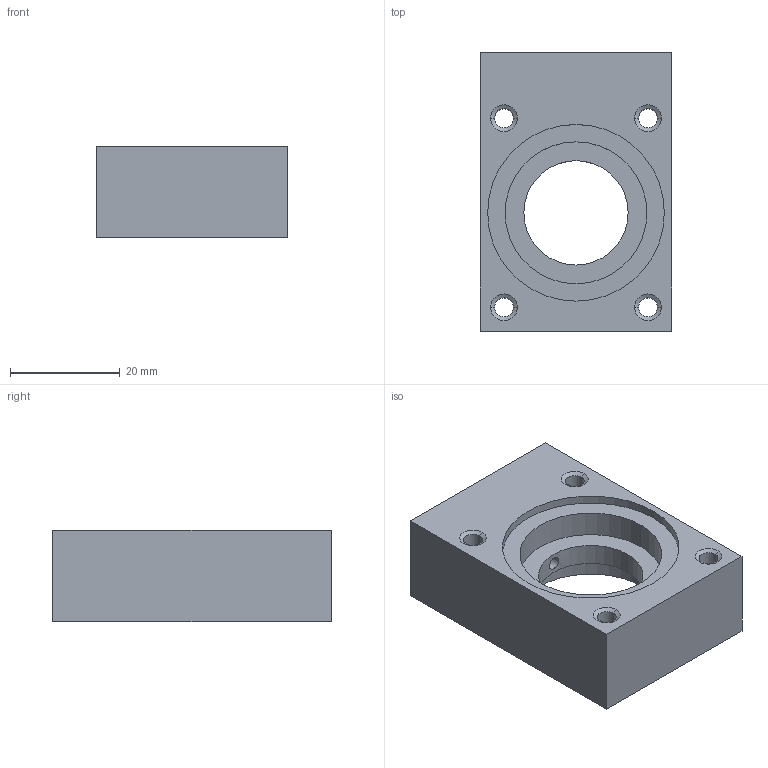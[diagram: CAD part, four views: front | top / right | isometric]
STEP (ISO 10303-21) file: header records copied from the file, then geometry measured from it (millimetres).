
FILE_DESCRIPTION(('Creo Elements/Direct Modeling STEP Export'),'2;1');
FILE_NAME('003-1368 (Ti 4mm body).stp','2020-08-13T19:28:58',(''),(''),'Creo Elements/Direct Modeling STEP processor for AP214 (Solid Model)','Creo Elements/Direct Modeling 20.2A 23-Sep-2019 (C) Parametric Technology GmbH','');
FILE_SCHEMA(('AUTOMOTIVE_DESIGN { 1 0 10303 214 1 1 1 1 }'));
Length unit declared in the file: millimetre
Products named in the file (2): cg_4mmcell_body
Assembly tree (1 placements, depth 2):
  cg_4mmcell_body
    cg_4mmcell_body
Bounding box: 34.92 x 50.8 x 16.71 mm (x, y, z)
Volume: 20027.8 mm3; surface area: 8084.2 mm2
Topology: 1 solids, 1 shells, 104 faces, 1237 edges, 1180 vertices
Faces by surface type: plane 52, cylinder 28, cone 24
Entity records: 11985 total; most frequent: CARTESIAN_POINT 2726, ORIENTED_EDGE 2470, DIRECTION 1353, EDGE_CURVE 1235, VERTEX_POINT 1180, VECTOR 1159, LINE 1159, EDGE_LOOP 163
